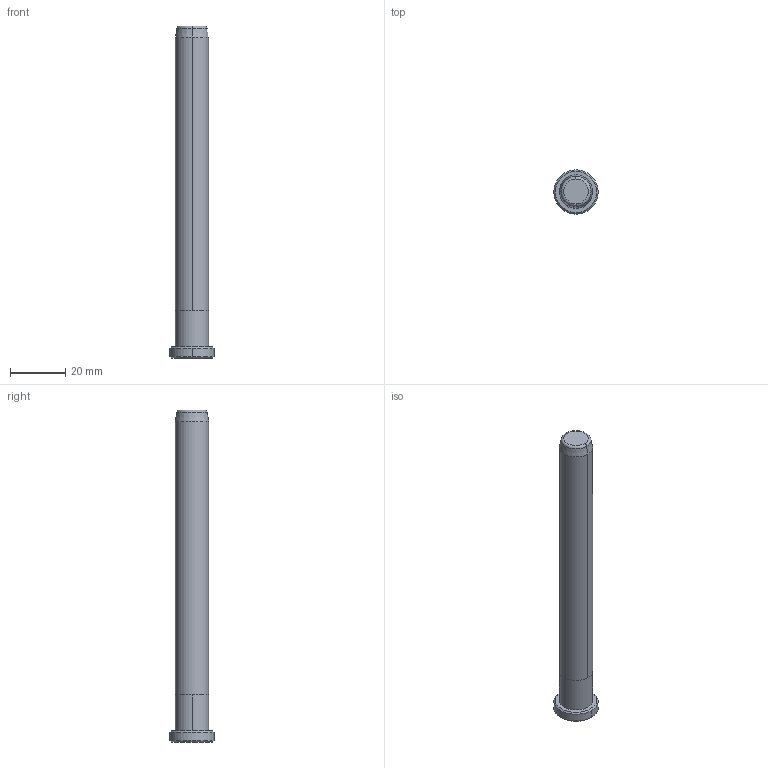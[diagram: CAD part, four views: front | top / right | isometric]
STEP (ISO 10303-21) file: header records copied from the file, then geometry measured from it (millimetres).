
FILE_DESCRIPTION((''),'2;1');
FILE_NAME('B82812120','2018-01-22T',('MANU'),(''),'PRO/ENGINEER BY PARAMETRIC TECHNOLOGY CORPORATION, 2012130','PRO/ENGINEER BY PARAMETRIC TECHNOLOGY CORPORATION, 2012130','');
FILE_SCHEMA(('CONFIG_CONTROL_DESIGN'));
Length unit declared in the file: millimetre
Products named in the file (1): B82812120
Bounding box: 16 x 16 x 120 mm (x, y, z)
Volume: 13860.5 mm3; surface area: 4905.6 mm2
Topology: 1 solids, 1 shells, 18 faces, 34 edges, 20 vertices
Faces by surface type: cone 6, cylinder 6, plane 4, torus 2
Entity records: 494 total; most frequent: DIRECTION 92, CARTESIAN_POINT 72, ORIENTED_EDGE 68, AXIS2_PLACEMENT_3D 40, EDGE_CURVE 34, CIRCLE 22, VERTEX_POINT 20, EDGE_LOOP 20
